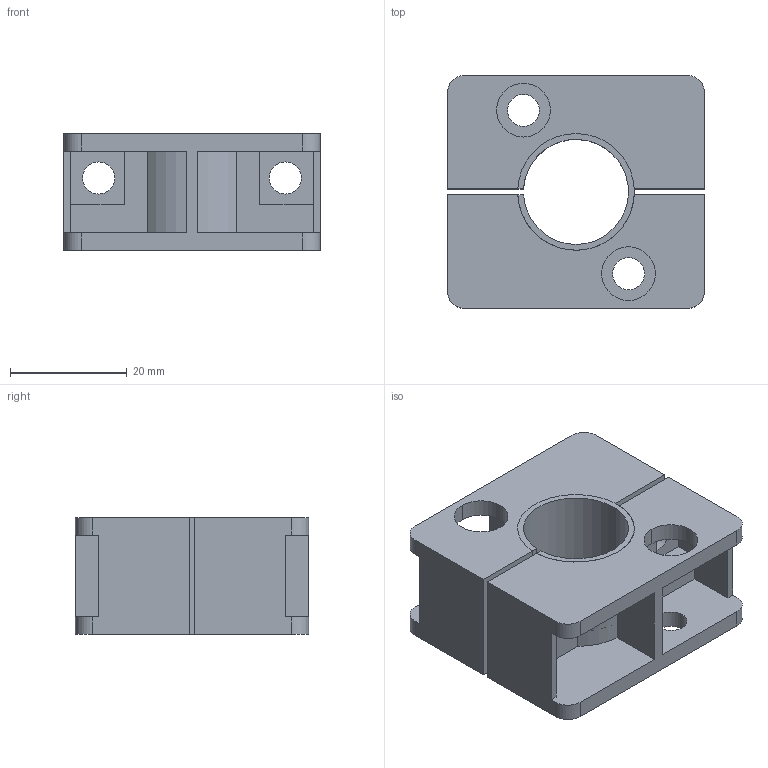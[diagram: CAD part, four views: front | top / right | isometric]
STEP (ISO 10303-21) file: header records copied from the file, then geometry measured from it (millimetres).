
FILE_DESCRIPTION( ( '' ), '1' );
FILE_NAME( '//partserver001.servicenet/client_exchange/iodir/jobs/output/wkb16344832_no3/STEP/e10076_2_03.stp', '2009-05-20T13:57:06', ( '' ), ( '' ), ' ', ' ', ' ' );
FILE_SCHEMA( ( 'CONFIG_CONTROL_DESIGN' ) );
Length unit declared in the file: millimetre
Products named in the file (3): 1; 2; 3
Bounding box: 44 x 40 x 20 mm (x, y, z)
Volume: 14263.3 mm3; surface area: 14163.5 mm2
Topology: 3 solids, 3 shells, 108 faces, 306 edges, 204 vertices
Faces by surface type: plane 62, cylinder 46
Entity records: 3686 total; most frequent: CARTESIAN_POINT 621, DIRECTION 620, ORIENTED_EDGE 612, EDGE_CURVE 306, LINE 214, VECTOR 214, VERTEX_POINT 204, AXIS2_PLACEMENT_3D 203
